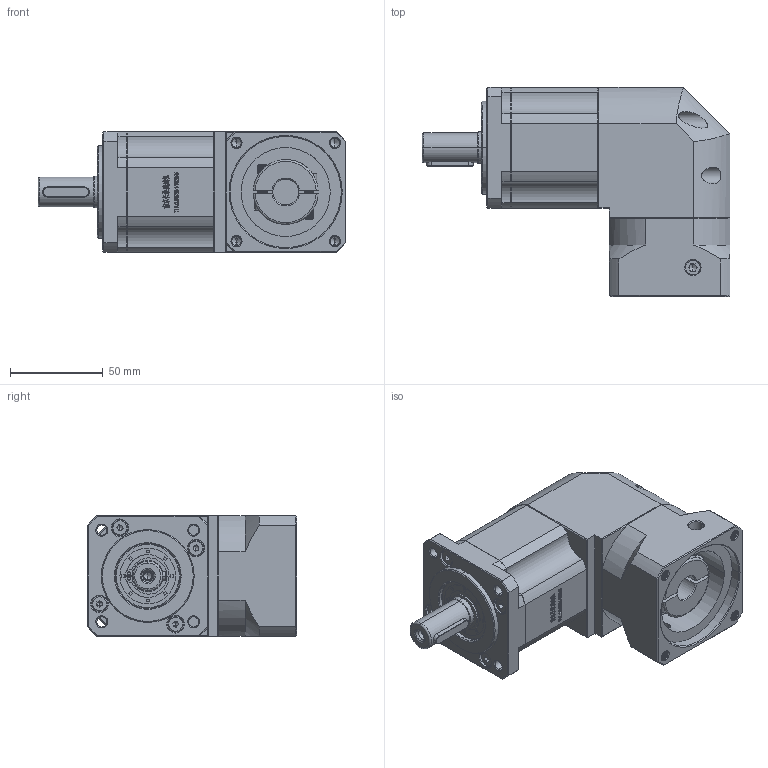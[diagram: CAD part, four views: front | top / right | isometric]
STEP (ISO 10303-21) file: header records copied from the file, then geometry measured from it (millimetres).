
FILE_DESCRIPTION (( 'STEP AP214' ), '1' );
FILE_NAME ('ZBR60-D16-L2-14-60-75-M6.STEP', '2022-04-19T09:05:40', ( '' ), ( 'Microsoft' ), 'SwSTEP 2.0', 'SolidWorks 2016', '' );
FILE_SCHEMA (( 'AUTOMOTIVE_DESIGN' ));
Length unit declared in the file: millimetre
Products named in the file (1): ZBR60-D16-L2-14-60-75-M6
Bounding box: 166 x 112.7 x 65 mm (x, y, z)
Volume: 601658.3 mm3; surface area: 83676.5 mm2
Topology: 5 solids, 5 shells, 2839 faces, 7701 edges, 4998 vertices
Faces by surface type: plane 1472, bspline 579, cylinder 428, cone 328, torus 32
Entity records: 154739 total; most frequent: CARTESIAN_POINT 56221, ORIENTED_EDGE 15342, DIRECTION 11723, EDGE_CURVE 7671, VECTOR 5067, LINE 5067, VERTEX_POINT 4998, AXIS2_PLACEMENT_3D 3328
